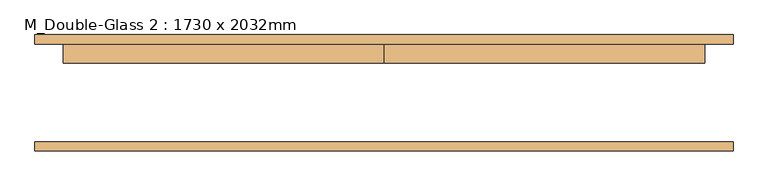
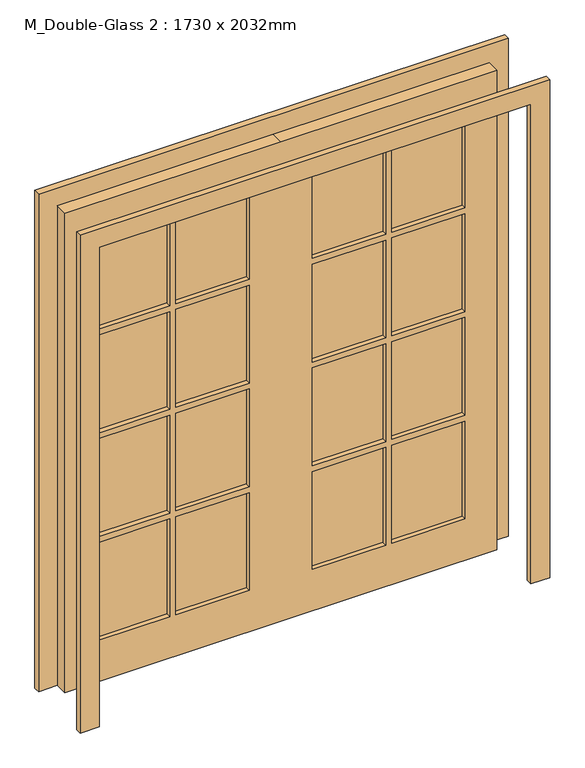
"""IFC4 building model written with IfcOpenShell, lengths in millimetres: door geometry, M_Double-Glass 2 : 1730 x 2032mm."""

from ifc_helpers import new_model, si_unit, frame, origin, place, context, project, spatial, polyline, outline, extrude, source, transform, mapped, element, save


def m_double_glass_2_1730_x_2032mm_0b333e25(model_context):
    return source(origin(), model_context, "Body", "SweptSolid", [
        extrude(outline(polyline([(445.0, 112.95), (738.0, 112.95), (738.0, 100.25), (445.0, 100.25), (445.0, 112.95)])), frame((0.0, 0.0, 1492.75), z_axis=(0.0, 0.0, 1.0), x_axis=(1.0, 0.0, 0.0)), (0.0, 0.0, 1.0), 414.25),
        extrude(outline(polyline([(127.0, 112.95), (420.0, 112.95), (420.0, 100.25), (127.0, 100.25), (127.0, 112.95)])), frame((0.0, 0.0, 1492.75), z_axis=(0.0, 0.0, 1.0), x_axis=(1.0, 0.0, 0.0)), (0.0, 0.0, 1.0), 414.25),
        extrude(outline(polyline([(-420.0, 112.95), (-127.0, 112.95), (-127.0, 100.25), (-420.0, 100.25), (-420.0, 112.95)])), frame((0.0, 0.0, 1492.75), z_axis=(0.0, 0.0, 1.0), x_axis=(1.0, 0.0, 0.0)), (0.0, 0.0, 1.0), 414.25),
        extrude(outline(polyline([(-738.0, 112.95), (-445.0, 112.95), (-445.0, 100.25), (-738.0, 100.25), (-738.0, 112.95)])), frame((0.0, 0.0, 1492.75), z_axis=(0.0, 0.0, 1.0), x_axis=(1.0, 0.0, 0.0)), (0.0, 0.0, 1.0), 414.25),
        extrude(outline(polyline([(-738.0, 112.95), (-445.0, 112.95), (-445.0, 100.25), (-738.0, 100.25), (-738.0, 112.95)])), frame((0.0, 0.0, 1053.5), z_axis=(0.0, 0.0, 1.0), x_axis=(1.0, 0.0, 0.0)), (0.0, 0.0, 1.0), 414.25),
        extrude(outline(polyline([(-420.0, 112.95), (-127.0, 112.95), (-127.0, 100.25), (-420.0, 100.25), (-420.0, 112.95)])), frame((0.0, 0.0, 1053.5), z_axis=(0.0, 0.0, 1.0), x_axis=(1.0, 0.0, 0.0)), (0.0, 0.0, 1.0), 414.25),
        extrude(outline(polyline([(127.0, 112.95), (420.0, 112.95), (420.0, 100.25), (127.0, 100.25), (127.0, 112.95)])), frame((0.0, 0.0, 1053.5), z_axis=(0.0, 0.0, 1.0), x_axis=(1.0, 0.0, 0.0)), (0.0, 0.0, 1.0), 414.25),
        extrude(outline(polyline([(445.0, 112.95), (738.0, 112.95), (738.0, 100.25), (445.0, 100.25), (445.0, 112.95)])), frame((0.0, 0.0, 1053.5), z_axis=(0.0, 0.0, 1.0), x_axis=(1.0, 0.0, 0.0)), (0.0, 0.0, 1.0), 414.25),
        extrude(outline(polyline([(445.0, 112.95), (738.0, 112.95), (738.0, 100.25), (445.0, 100.25), (445.0, 112.95)])), frame((0.0, 0.0, 614.25), z_axis=(0.0, 0.0, 1.0), x_axis=(1.0, 0.0, 0.0)), (0.0, 0.0, 1.0), 414.25),
        extrude(outline(polyline([(127.0, 112.95), (420.0, 112.95), (420.0, 100.25), (127.0, 100.25), (127.0, 112.95)])), frame((0.0, 0.0, 614.25), z_axis=(0.0, 0.0, 1.0), x_axis=(1.0, 0.0, 0.0)), (0.0, 0.0, 1.0), 414.25),
        extrude(outline(polyline([(-420.0, 112.95), (-127.0, 112.95), (-127.0, 100.25), (-420.0, 100.25), (-420.0, 112.95)])), frame((0.0, 0.0, 614.25), z_axis=(0.0, 0.0, 1.0), x_axis=(1.0, 0.0, 0.0)), (0.0, 0.0, 1.0), 414.25),
        extrude(outline(polyline([(-738.0, 112.95), (-445.0, 112.95), (-445.0, 100.25), (-738.0, 100.25), (-738.0, 112.95)])), frame((0.0, 0.0, 614.25), z_axis=(0.0, 0.0, 1.0), x_axis=(1.0, 0.0, 0.0)), (0.0, 0.0, 1.0), 414.25),
        extrude(outline(polyline([(445.0, 112.95), (738.0, 112.95), (738.0, 100.25), (445.0, 100.25), (445.0, 112.95)])), frame((0.0, 0.0, 175.0), z_axis=(0.0, 0.0, 1.0), x_axis=(1.0, 0.0, 0.0)), (0.0, 0.0, 1.0), 414.25),
        extrude(outline(polyline([(127.0, 112.95), (420.0, 112.95), (420.0, 100.25), (127.0, 100.25), (127.0, 112.95)])), frame((0.0, 0.0, 175.0), z_axis=(0.0, 0.0, 1.0), x_axis=(1.0, 0.0, 0.0)), (0.0, 0.0, 1.0), 414.25),
        extrude(outline(polyline([(-420.0, 112.95), (-127.0, 112.95), (-127.0, 100.25), (-420.0, 100.25), (-420.0, 112.95)])), frame((0.0, 0.0, 175.0), z_axis=(0.0, 0.0, 1.0), x_axis=(1.0, 0.0, 0.0)), (0.0, 0.0, 1.0), 414.25),
        extrude(outline(polyline([(-738.0, 112.95), (-445.0, 112.95), (-445.0, 100.25), (-738.0, 100.25), (-738.0, 112.95)])), frame((0.0, 0.0, 175.0), z_axis=(0.0, 0.0, 1.0), x_axis=(1.0, 0.0, 0.0)), (0.0, 0.0, 1.0), 414.25),
        extrude(outline(polyline([(2032.0, 0.0), (2032.0, -865.0), (0.0, -865.0), (0.0, 0.0), (0.0, 865.0), (2032.0, 865.0), (2032.0, 0.0)]), holes=[polyline([(1907.0, 445.0), (1907.0, 738.0), (1492.75, 738.0), (1492.75, 445.0), (1907.0, 445.0)]), polyline([(1907.0, 127.0), (1907.0, 420.0), (1492.75, 420.0), (1492.75, 127.0), (1907.0, 127.0)]), polyline([(1467.75, 445.0), (1467.75, 738.0), (1053.5, 738.0), (1053.5, 445.0), (1467.75, 445.0)]), polyline([(1467.75, 127.0), (1467.75, 420.0), (1053.5, 420.0), (1053.5, 127.0), (1467.75, 127.0)]), polyline([(1028.5, 445.0), (1028.5, 738.0), (614.25, 738.0), (614.25, 445.0), (1028.5, 445.0)]), polyline([(1028.5, 127.0), (1028.5, 420.0), (614.25, 420.0), (614.25, 127.0), (1028.5, 127.0)]), polyline([(589.25, 445.0), (589.25, 738.0), (175.0, 738.0), (175.0, 445.0), (589.25, 445.0)]), polyline([(589.25, 127.0), (589.25, 420.0), (175.0, 420.0), (175.0, 127.0), (589.25, 127.0)]), polyline([(1907.0, -420.0), (1907.0, -127.0), (1492.75, -127.0), (1492.75, -420.0), (1907.0, -420.0)]), polyline([(1467.75, -420.0), (1467.75, -127.0), (1053.5, -127.0), (1053.5, -420.0), (1467.75, -420.0)]), polyline([(1467.75, -445.0), (1053.5, -445.0), (1053.5, -738.0), (1467.75, -738.0), (1467.75, -445.0)]), polyline([(1028.5, -420.0), (1028.5, -127.0), (614.25, -127.0), (614.25, -420.0), (1028.5, -420.0)]), polyline([(1028.5, -445.0), (614.25, -445.0), (614.25, -738.0), (1028.5, -738.0), (1028.5, -445.0)]), polyline([(589.25, -420.0), (589.25, -127.0), (175.0, -127.0), (175.0, -420.0), (589.25, -420.0)]), polyline([(589.25, -738.0), (589.25, -445.0), (175.0, -445.0), (175.0, -738.0), (589.25, -738.0)]), polyline([(1492.75, -445.0), (1492.75, -738.0), (1907.0, -738.0), (1907.0, -445.0), (1492.75, -445.0)])]), frame((0.0, 81.0, 0.0), z_axis=(0.0, 1.0, 0.0), x_axis=(0.0, 0.0, 1.0)), (0.0, 0.0, 1.0), 51.0),
        extrude(outline(polyline([(2032.0, -865.0), (2032.0, 865.0), (0.0, 865.0), (0.0, 941.0), (2108.0, 941.0), (2108.0, -941.0), (0.0, -941.0), (0.0, -865.0), (2032.0, -865.0)])), frame((0.0, -157.0, 0.0), z_axis=(0.0, 1.0, 0.0), x_axis=(0.0, 0.0, 1.0)), (0.0, 0.0, 1.0), 25.0),
        extrude(outline(polyline([(2032.0, -865.0), (2032.0, 865.0), (0.0, 865.0), (0.0, 941.0), (2108.0, 941.0), (2108.0, -941.0), (0.0, -941.0), (0.0, -865.0), (2032.0, -865.0)])), frame((0.0, 132.0, 0.0), z_axis=(0.0, 1.0, 0.0), x_axis=(0.0, 0.0, 1.0)), (0.0, 0.0, 1.0), 25.0),
    ])


if __name__ == "__main__":
    model = new_model("IFC4")
    model_context = context("Model", 3, world=origin())
    ifc_project = project(units=[si_unit("LENGTHUNIT", "METRE", prefix="MILLI")], contexts=[model_context])
    site = spatial("IfcSite", under=ifc_project)
    building = spatial("IfcBuilding", under=site)
    placement = place(None, origin())
    m_double_glass_2_1730_x_2032mm_shape = m_double_glass_2_1730_x_2032mm_0b333e25(model_context)
    element("IfcDoor", 1, ObjectType="M_Double-Glass 2 : 1730 x 2032mm", at=placement, inside=building, context=model_context, shape_type="MappedRepresentation", body=[
        mapped(m_double_glass_2_1730_x_2032mm_shape, transform((0.0, 0.0, 0.0), x_axis=(1.0, 0.0, 0.0), y_axis=(0.0, 1.0, 0.0), z_axis=(0.0, 0.0, 1.0))),
    ])
    save(model, "model.ifc")
